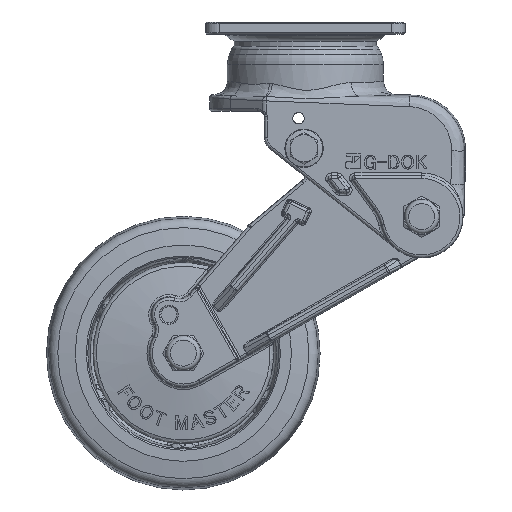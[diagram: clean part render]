
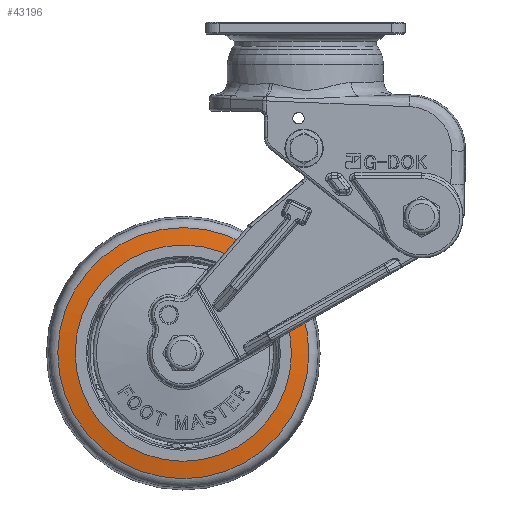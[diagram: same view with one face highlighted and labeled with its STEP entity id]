
A CAD part, front view. The second image highlights one B-rep face of the part: STEP entity #43196.
In plain terms, the highlighted conical face has half-angle 80.918 degrees and reference radius 42.694 mm.
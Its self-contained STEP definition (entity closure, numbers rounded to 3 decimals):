
#4775=FACE_OUTER_BOUND('',#7397,.T.);
#7397=EDGE_LOOP('',(#27427,#27428,#27429,#27430,#27431));
#10170=LINE('',#60309,#12605);
#12605=VECTOR('',#49866,42.694);
#15044=CIRCLE('',#45847,45.873);
#15045=CIRCLE('',#45848,39.516);
#15046=CIRCLE('',#45849,45.873);
#16926=VERTEX_POINT('',#60305);
#16927=VERTEX_POINT('',#60306);
#16928=VERTEX_POINT('',#60308);
#20930=EDGE_CURVE('',#16926,#16927,#15044,.T.);
#20931=EDGE_CURVE('',#16927,#16928,#10170,.T.);
#20932=EDGE_CURVE('',#16928,#16928,#15045,.T.);
#20933=EDGE_CURVE('',#16927,#16926,#15046,.T.);
#27427=ORIENTED_EDGE('',*,*,#20930,.T.);
#27428=ORIENTED_EDGE('',*,*,#20931,.T.);
#27429=ORIENTED_EDGE('',*,*,#20932,.T.);
#27430=ORIENTED_EDGE('',*,*,#20931,.F.);
#27431=ORIENTED_EDGE('',*,*,#20933,.T.);
#40409=CONICAL_SURFACE('',#45846,42.694,1.412);
#43196=ADVANCED_FACE('',(#4775),#40409,.T.);
#45846=AXIS2_PLACEMENT_3D('',#60304,#49862,#49863);
#45847=AXIS2_PLACEMENT_3D('',#60307,#49864,#49865);
#45848=AXIS2_PLACEMENT_3D('',#60310,#49867,#49868);
#45849=AXIS2_PLACEMENT_3D('',#60311,#49869,#49870);
#49862=DIRECTION('center_axis',(0.,1.,0.));
#49863=DIRECTION('ref_axis',(0.868,0.,0.497));
#49864=DIRECTION('center_axis',(0.,-1.,0.));
#49865=DIRECTION('ref_axis',(0.497,0.,-0.868));
#49866=DIRECTION('',(0.857,-0.158,0.49));
#49867=DIRECTION('center_axis',(0.,1.,0.));
#49868=DIRECTION('ref_axis',(0.868,0.,0.497));
#49869=DIRECTION('center_axis',(0.,-1.,0.));
#49870=DIRECTION('ref_axis',(0.497,0.,-0.868));
#60304=CARTESIAN_POINT('Origin',(-44.607,-14.492,-112.349));
#60305=CARTESIAN_POINT('',(-67.392,-13.984,-72.535));
#60306=CARTESIAN_POINT('',(-84.421,-13.984,-135.134));
#60307=CARTESIAN_POINT('Origin',(-44.607,-13.984,-112.349));
#60308=CARTESIAN_POINT('',(-78.904,-15.,-131.977));
#60309=CARTESIAN_POINT('',(-81.663,-14.492,-133.555));
#60310=CARTESIAN_POINT('Origin',(-44.607,-15.,-112.349));
#60311=CARTESIAN_POINT('Origin',(-44.607,-13.984,-112.349));
